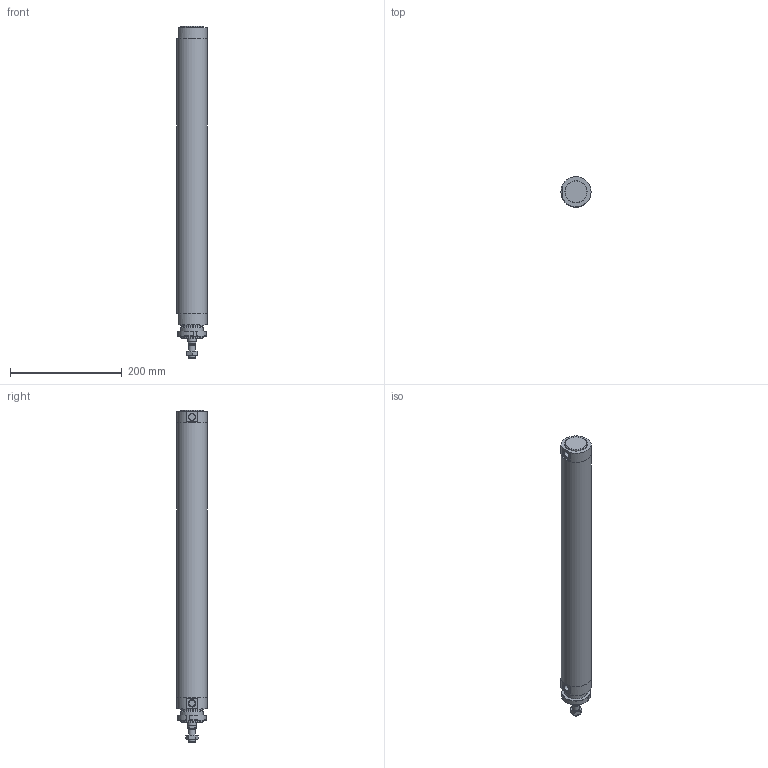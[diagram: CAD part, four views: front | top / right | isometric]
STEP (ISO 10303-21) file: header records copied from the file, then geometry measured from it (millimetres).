
FILE_DESCRIPTION(/* description */ (''),/* implementation_level */ '2;1');
FILE_NAME(/* name */ 'I:\Area Tecnica\Documenti\A-Manieri\_Inventor\12X\12X#D_###_####_#_#\12XAD_050_0450_#_#.stp',/* time_stamp */ '2015-04-29T16:44:42+02:00',/* author */ ('maniean1'),/* organization */ ('Pneumax S.p.A.'),/* preprocessor_version */ 'ST-DEVELOPER v15.2',/* originating_system */ 'Autodesk Inventor 2014',/* authorisation */ '');
FILE_SCHEMA (('AUTOMOTIVE_DESIGN { 1 0 10303 214 3 1 1 }'));
Length unit declared in the file: millimetre
Products named in the file (7): C1250_619-0450; 12X50_604; S12X50_0450; 12X_50_11; 12X50_611; G12X_050_05; 12XAD_050_0450_#_#
Bounding box: 54 x 54 x 595 mm (x, y, z)
Volume: 472973.8 mm3; surface area: 225177.7 mm2
Topology: 6 solids, 6 shells, 81 faces, 175 edges, 112 vertices
Faces by surface type: plane 41, cylinder 21, cone 19
Full cylindrical faces by diameter (mm): 10.2 x1, 11.4 x2, 12 x2, 14 x1, 15.6 x1, 16 x1, 38.2 x1, 40 x4, 50 x2, 54 x3
Entity records: 2155 total; most frequent: CARTESIAN_POINT 400, DIRECTION 364, ORIENTED_EDGE 284, AXIS2_PLACEMENT_3D 156, EDGE_CURVE 142, EDGE_LOOP 124, VERTEX_POINT 108, ADVANCED_FACE 81
